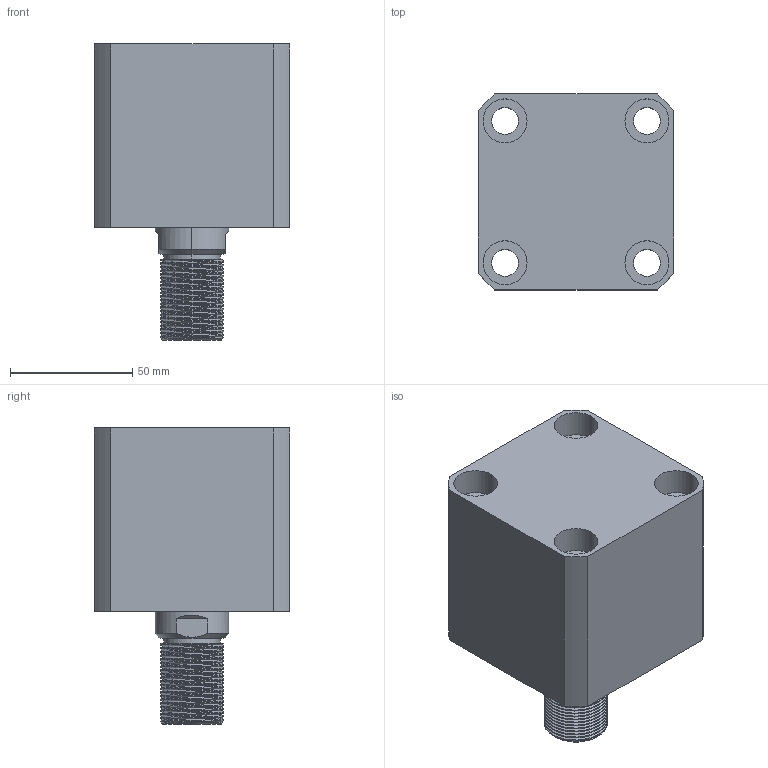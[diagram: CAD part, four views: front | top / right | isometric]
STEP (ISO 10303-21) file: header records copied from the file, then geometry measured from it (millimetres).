
FILE_DESCRIPTION (( 'STEP AP203' ), '1' );
FILE_NAME ('CHTB-SDMA50-15W.STEP', '2018-05-19T01:27:35', ( '' ), ( '' ), 'SwSTEP 2.0', 'SolidWorks 2015', '' );
FILE_SCHEMA (( 'CONFIG_CONTROL_DESIGN' ));
Length unit declared in the file: millimetre
Products named in the file (5): CHTB-SDMA50-15W; 掛极SDMA50-15W; 活塞杆SDMA50-15W; M6; CHTM-SDMA50QG
Assembly tree (5 placements, depth 2):
  CHTB-SDMA50-15W
    掛极SDMA50-15W
    活塞杆SDMA50-15W
    CHTM-SDMA50QG
    M6  x2
Bounding box: 80 x 80 x 121 mm (x, y, z)
Volume: 431391.8 mm3; surface area: 93107.8 mm2
Topology: 5 solids, 5 shells, 315 faces, 837 edges, 556 vertices
Faces by surface type: cylinder 180, plane 61, cone 30, bspline 28, torus 16
Entity records: 17996 total; most frequent: CARTESIAN_POINT 11054, ORIENTED_EDGE 1480, DIRECTION 1182, EDGE_CURVE 740, VERTEX_POINT 495, AXIS2_PLACEMENT_3D 476, EDGE_LOOP 323, ADVANCED_FACE 280
